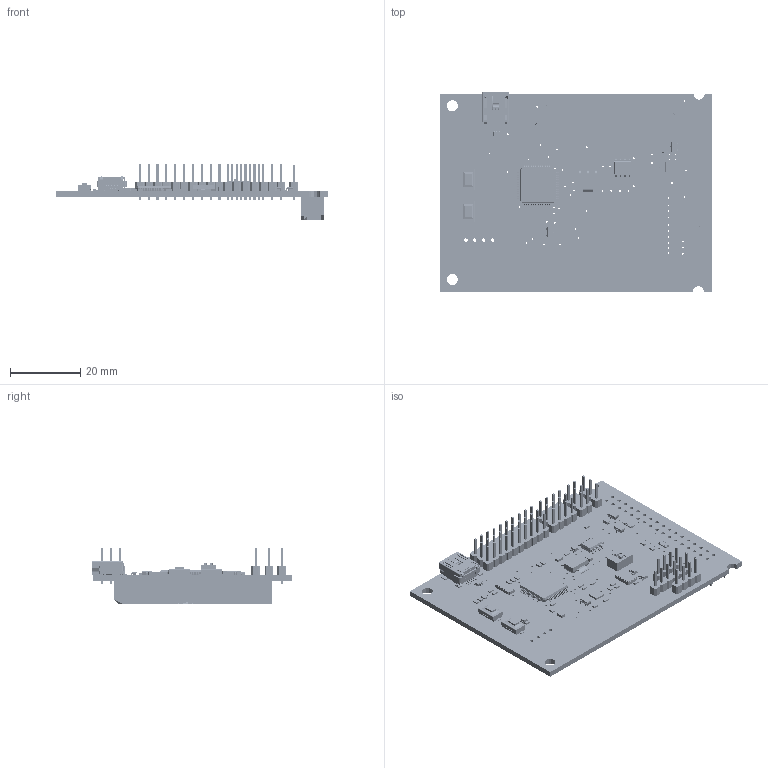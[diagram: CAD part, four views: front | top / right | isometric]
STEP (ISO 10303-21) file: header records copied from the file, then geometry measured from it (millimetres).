
FILE_DESCRIPTION(('AUTOMAPKI'),'2;1');
FILE_NAME('navx-mxp','2020-02-10T03:29:37',('AUTOMAPKI'),('AUTOMAPKI'), 'Open CASCADE STEP processor 7.3','AUTOMAPKI','Unknown');
FILE_SCHEMA(('AUTOMOTIVE_DESIGN { 1 0 10303 214 1 1 1 1 }'));
Length unit declared in the file: millimetre
Products named in the file (360): AUTOMAPKI 1; Mesh02; AUTOMAPKI 3; Mesh64; AUTOMAPKI 5; Mesh03; 1_1; AUTOMAPKI 8; Mesh65; Mesh04; AUTOMAPKI 11; Mesh66; AUTOMAPKI 13; Mesh05; AUTOMAPKI 15; Mesh06; AUTOMAPKI 17; Mesh67; AUTOMAPKI 19; Mesh68; Mesh07; AUTOMAPKI 22; Mesh08; AUTOMAPKI 24; Mesh09; AUTOMAPKI 26; Mesh69; AUTOMAPKI 28; Mesh70; Mesh10; AUTOMAPKI 31; Mesh71; AUTOMAPKI 33; Mesh11; AUTOMAPKI 35; Mesh12; 2_1; AUTOMAPKI 38; Mesh72; AUTOMAPKI 40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
Bounding box: 77.47 x 57.01 x 15.8 mm (x, y, z)
Topology: 171 solids, 927 shells, 54824 faces, 84848 edges, 30646 vertices
Faces by surface type: plane 54824
Entity records: 872982 total; most frequent: DIRECTION 163192, CARTESIAN_POINT 139018, ORIENTED_EDGE 101816, AXIS2_PLACEMENT_3D 54825, ADVANCED_FACE 54824, FACE_OUTER_BOUND 54824, PLANE 54824, EDGE_CURVE 53542
